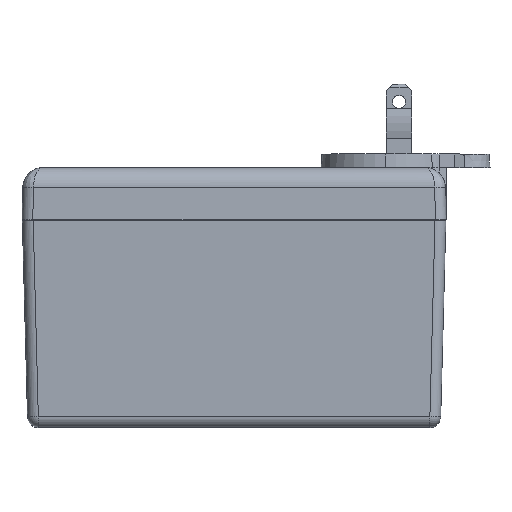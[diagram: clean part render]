
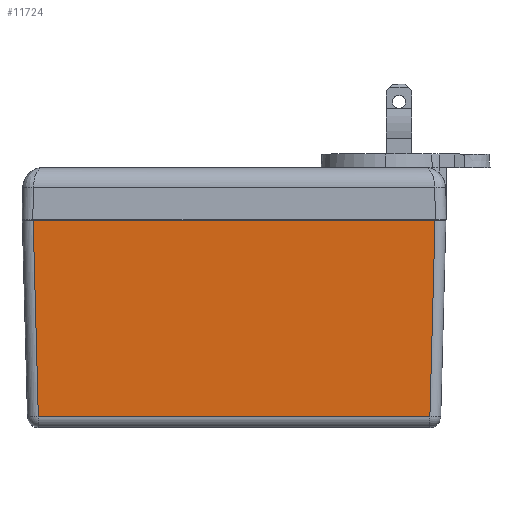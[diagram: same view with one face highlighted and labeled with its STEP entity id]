
A CAD part, top view. The second image highlights one B-rep face of the part: STEP entity #11724.
In plain terms, the highlighted planar face has unit normal (0, -0.026, 1).
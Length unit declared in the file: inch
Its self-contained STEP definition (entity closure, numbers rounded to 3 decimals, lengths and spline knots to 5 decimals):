
#333 = EDGE_LOOP ( 'NONE', ( #13071, #13075, #13065, #13063 ) ) ;
#1207 = VECTOR ( 'NONE', #2943, 39.37008 ) ;
#1210 = LINE ( 'NONE', #2941, #1213 ) ;
#1213 = VECTOR ( 'NONE', #2940, 39.37008 ) ;
#1675 = CARTESIAN_POINT ( 'NONE',  ( -1.89971, -1.90275, 1.06617 ) ) ;
#1682 = CARTESIAN_POINT ( 'NONE',  ( 1.89971, -1.90275, 1.06617 ) ) ;
#1740 = CARTESIAN_POINT ( 'NONE',  ( -1.94954, 0., 1.116 ) ) ;
#1806 = CARTESIAN_POINT ( 'NONE',  ( 1.94954, 0., 1.116 ) ) ;
#1880 = VERTEX_POINT ( 'NONE', #1806 ) ;
#1943 = VERTEX_POINT ( 'NONE', #1740 ) ;
#1998 = VERTEX_POINT ( 'NONE', #1682 ) ;
#2005 = VERTEX_POINT ( 'NONE', #1675 ) ;
#2940 = DIRECTION ( 'NONE',  ( 1., 0., 0. ) ) ;
#2941 = CARTESIAN_POINT ( 'NONE',  ( -2.0545, 0., 1.116 ) ) ;
#2943 = DIRECTION ( 'NONE',  ( 0.026, -0.999, -0.026 ) ) ;
#2944 = CARTESIAN_POINT ( 'NONE',  ( -1.94961, 0.00274, 1.11607 ) ) ;
#2949 = DIRECTION ( 'NONE',  ( 0.026, 0.999, 0.026 ) ) ;
#2951 = CARTESIAN_POINT ( 'NONE',  ( 1.94679, -0.10471, 1.11326 ) ) ;
#2995 = DIRECTION ( 'NONE',  ( 1., 0., 0. ) ) ;
#3004 = CARTESIAN_POINT ( 'NONE',  ( -2.0545, -1.90275, 1.06617 ) ) ;
#3856 = LINE ( 'NONE', #3004, #3859 ) ;
#3859 = VECTOR ( 'NONE', #2995, 39.37008 ) ;
#6565 = DIRECTION ( 'NONE',  ( 0., -1., -0.026 ) ) ;
#6566 = DIRECTION ( 'NONE',  ( 0., -0.026, 1. ) ) ;
#6568 = PLANE ( 'NONE',  #17767 ) ;
#6569 = CARTESIAN_POINT ( 'NONE',  ( -2.0545, 0., 1.116 ) ) ;
#7969 = LINE ( 'NONE', #2944, #1207 ) ;
#8043 = VECTOR ( 'NONE', #2949, 39.37008 ) ;
#9808 = LINE ( 'NONE', #2951, #8043 ) ;
#11724 = ADVANCED_FACE ( 'NONE', ( #17025 ), #6568, .T. ) ;
#13063 = ORIENTED_EDGE ( 'NONE', *, *, #16994, .T. ) ;
#13065 = ORIENTED_EDGE ( 'NONE', *, *, #16996, .F. ) ;
#13071 = ORIENTED_EDGE ( 'NONE', *, *, #16962, .T. ) ;
#13075 = ORIENTED_EDGE ( 'NONE', *, *, #16992, .T. ) ;
#16962 = EDGE_CURVE ( 'NONE', #2005, #1998, #3856, .T. ) ;
#16992 = EDGE_CURVE ( 'NONE', #1998, #1880, #9808, .T. ) ;
#16994 = EDGE_CURVE ( 'NONE', #1943, #2005, #7969, .T. ) ;
#16996 = EDGE_CURVE ( 'NONE', #1943, #1880, #1210, .T. ) ;
#17025 = FACE_OUTER_BOUND ( 'NONE', #333, .T. ) ;
#17767 = AXIS2_PLACEMENT_3D ( 'NONE', #6569, #6566, #6565 ) ;
